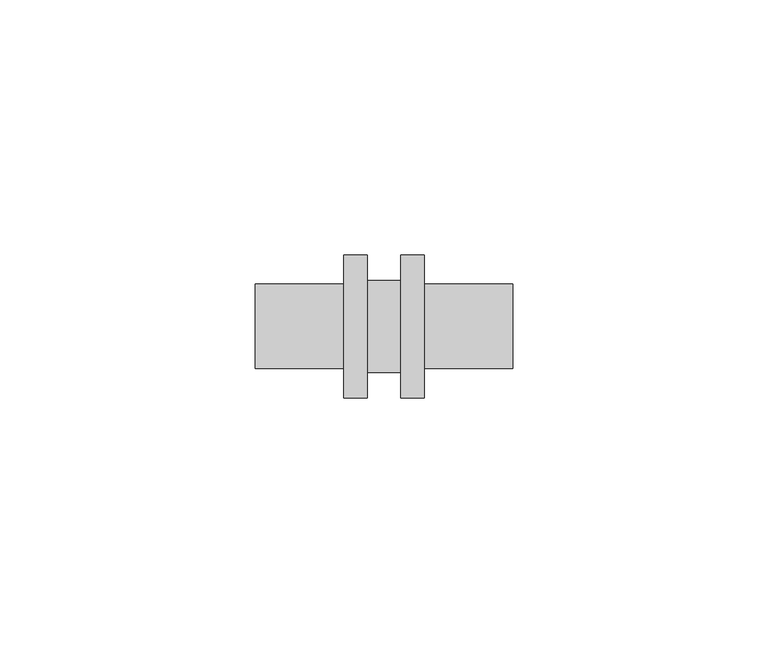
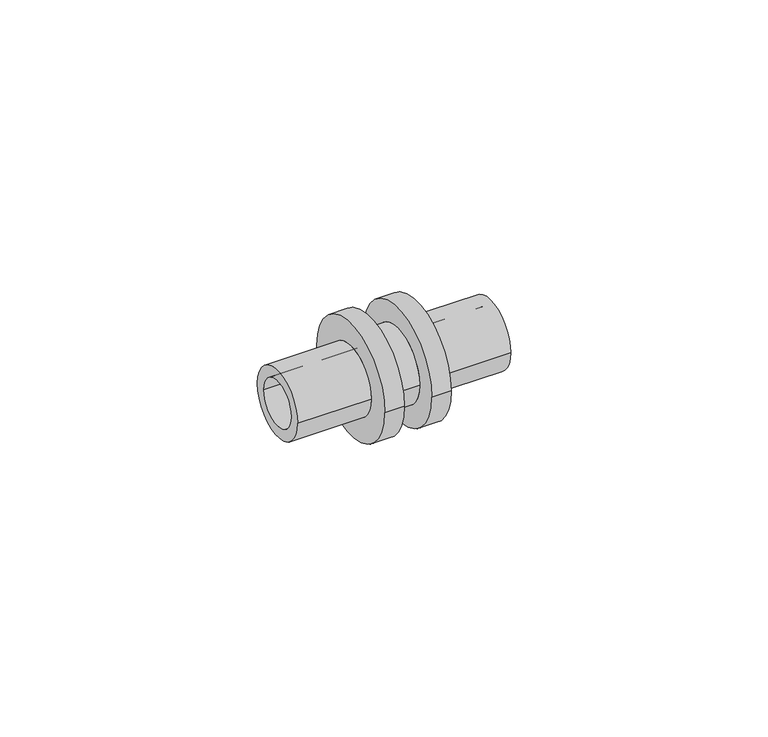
"""IFC4 building model written with IfcOpenShell, lengths in millimetres: pipe fitting geometry, RAUTITAN_Union_PX : RTI PX U DE."""

from ifc_helpers import new_model, si_unit, frame, origin, place, context, project, spatial, polyline, circle_curve, source, transform, mapped, element, save
from ifc_brep_helpers import plane_surface, cylinder_surface, revolved_surface, advanced_brep


def pipe_fitting_dde2d515(model_context):
    return source(origin(), model_context, "Body", "AdvancedBrep", [
        advanced_brep(
        [(-25.25, 5.6, 0.0), (-25.25, -5.6, 0.0), (25.25, -5.6, 0.0), (25.25, 5.6, 0.0), (-7.85, 8.3, 0.0), (-7.85, -8.3, 0.0), (-25.25, -8.3, 0.0), (-25.25, 8.3, 0.0), (-3.25, 14.0, 0.0), (-3.25, -14.0, 0.0), (-7.85, -14.0, 0.0), (-7.85, 14.0, 0.0), (3.25, 9.0, 0.0), (3.25, -9.0, 0.0), (-3.25, -9.0, 0.0), (-3.25, 9.0, 0.0), (7.85, 14.0, 0.0), (7.85, -14.0, 0.0), (3.25, -14.0, 0.0), (3.25, 14.0, 0.0), (25.25, 8.3, 0.0), (25.25, -8.3, 0.0), (7.85, -8.3, 0.0), (7.85, 8.3, 0.0)],
        [
            (0, 1, circle_curve(frame((-25.25, 0.0, 0.0), z_axis=(-1.0, 0.0, 0.0), x_axis=(0.0, -1.0, 0.0)), 5.6)),
            (1, 2),
            (2, 3, circle_curve(frame((25.25, 0.0, 0.0), z_axis=(1.0, 0.0, 0.0), x_axis=(0.0, -1.0, 0.0)), 5.6)),
            (3, 0),
            (4, 5, circle_curve(frame((-7.85, 0.0, 0.0), z_axis=(-1.0, 0.0, 0.0), x_axis=(0.0, -1.0, 0.0)), 8.3)),
            (5, 6),
            (6, 7, circle_curve(frame((-25.25, 0.0, 0.0), z_axis=(1.0, 0.0, 0.0), x_axis=(0.0, -1.0, 0.0)), 8.3)),
            (7, 4),
            (8, 9, circle_curve(frame((-3.25, 0.0, 0.0), z_axis=(-1.0, 0.0, 0.0), x_axis=(0.0, -1.0, 0.0)), 14.0)),
            (9, 10),
            (10, 11, circle_curve(frame((-7.85, 0.0, 0.0), z_axis=(1.0, 0.0, 0.0), x_axis=(0.0, -1.0, 0.0)), 14.0)),
            (11, 8),
            (12, 13, circle_curve(frame((3.25, 0.0, 0.0), z_axis=(-1.0, 0.0, 0.0), x_axis=(0.0, -1.0, 0.0)), 9.0)),
            (13, 14),
            (14, 15, circle_curve(frame((-3.25, 0.0, 0.0), z_axis=(1.0, 0.0, 0.0), x_axis=(0.0, -1.0, 0.0)), 9.0)),
            (15, 12),
            (16, 17, circle_curve(frame((7.85, 0.0, 0.0), z_axis=(-1.0, 0.0, 0.0), x_axis=(0.0, -1.0, 0.0)), 14.0)),
            (17, 18),
            (18, 19, circle_curve(frame((3.25, 0.0, 0.0), z_axis=(1.0, 0.0, 0.0), x_axis=(0.0, -1.0, 0.0)), 14.0)),
            (19, 16),
            (20, 21, circle_curve(frame((25.25, 0.0, 0.0), z_axis=(-1.0, 0.0, 0.0), x_axis=(0.0, -1.0, 0.0)), 8.3)),
            (21, 22),
            (22, 23, circle_curve(frame((7.85, 0.0, 0.0), z_axis=(1.0, 0.0, 0.0), x_axis=(0.0, -1.0, 0.0)), 8.3)),
            (23, 20),
            (1, 0, circle_curve(frame((-25.25, 0.0, 0.0), z_axis=(-1.0, 0.0, 0.0), x_axis=(0.0, 1.0, 0.0)), 5.6)),
            (3, 2, circle_curve(frame((25.25, 0.0, 0.0), z_axis=(1.0, 0.0, 0.0), x_axis=(0.0, 1.0, 0.0)), 5.6)),
            (6, 7, circle_curve(frame((-25.25, 0.0, 0.0), z_axis=(-1.0, 0.0, 0.0), x_axis=(0.0, 1.0, 0.0)), 8.3)),
            (5, 4, circle_curve(frame((-7.85, 0.0, 0.0), z_axis=(-1.0, 0.0, 0.0), x_axis=(0.0, 1.0, 0.0)), 8.3)),
            (10, 11, circle_curve(frame((-7.85, 0.0, 0.0), z_axis=(-1.0, 0.0, 0.0), x_axis=(0.0, 1.0, 0.0)), 14.0)),
            (9, 8, circle_curve(frame((-3.25, 0.0, 0.0), z_axis=(-1.0, 0.0, 0.0), x_axis=(0.0, 1.0, 0.0)), 14.0)),
            (14, 15, circle_curve(frame((-3.25, 0.0, 0.0), z_axis=(-1.0, 0.0, 0.0), x_axis=(0.0, 1.0, 0.0)), 9.0)),
            (13, 12, circle_curve(frame((3.25, 0.0, 0.0), z_axis=(-1.0, 0.0, 0.0), x_axis=(0.0, 1.0, 0.0)), 9.0)),
            (18, 19, circle_curve(frame((3.25, 0.0, 0.0), z_axis=(-1.0, 0.0, 0.0), x_axis=(0.0, 1.0, 0.0)), 14.0)),
            (17, 16, circle_curve(frame((7.85, 0.0, 0.0), z_axis=(-1.0, 0.0, 0.0), x_axis=(0.0, 1.0, 0.0)), 14.0)),
            (22, 23, circle_curve(frame((7.85, 0.0, 0.0), z_axis=(-1.0, 0.0, 0.0), x_axis=(0.0, 1.0, 0.0)), 8.3)),
            (21, 20, circle_curve(frame((25.25, 0.0, 0.0), z_axis=(-1.0, 0.0, 0.0), x_axis=(0.0, 1.0, 0.0)), 8.3)),
        ],
        [
            revolved_surface(polyline([(25.25, -5.6, 0.0), (-25.25, -5.6, 0.0)]), (0.0, 0.0, 0.0), (1.0, 0.0, 0.0)),
            cylinder_surface(frame((0.0, 0.0, 0.0), z_axis=(1.0, 0.0, 0.0), x_axis=(0.0, -1.0, 0.0)), 8.3),
            cylinder_surface(frame((0.0, 0.0, 0.0), z_axis=(1.0, 0.0, 0.0), x_axis=(0.0, -1.0, 0.0)), 14.0),
            cylinder_surface(frame((0.0, 0.0, 0.0), z_axis=(1.0, 0.0, 0.0), x_axis=(0.0, -1.0, 0.0)), 9.0),
            revolved_surface(polyline([(25.25, 5.6, 0.0), (-25.25, 5.6, 0.0)]), (0.0, 0.0, 0.0), (1.0, 0.0, 0.0)),
            plane_surface(frame((-25.25, 0.0, 0.0), z_axis=(-1.0, 0.0, 0.0), x_axis=(0.0, 1.0, 0.0))),
            cylinder_surface(frame((0.0, 0.0, 0.0), z_axis=(1.0, 0.0, 0.0), x_axis=(0.0, 1.0, 0.0)), 8.3),
            plane_surface(frame((-7.85, 0.0, 0.0), z_axis=(-1.0, 0.0, 0.0), x_axis=(0.0, 1.0, 0.0))),
            cylinder_surface(frame((0.0, 0.0, 0.0), z_axis=(1.0, 0.0, 0.0), x_axis=(0.0, 1.0, 0.0)), 14.0),
            plane_surface(frame((-3.25, 0.0, 0.0), z_axis=(1.0, 0.0, 0.0), x_axis=(0.0, 1.0, 0.0))),
            cylinder_surface(frame((0.0, 0.0, 0.0), z_axis=(1.0, 0.0, 0.0), x_axis=(0.0, 1.0, 0.0)), 9.0),
            plane_surface(frame((3.25, 0.0, 0.0), z_axis=(-1.0, 0.0, 0.0), x_axis=(0.0, 1.0, 0.0))),
            plane_surface(frame((7.85, 0.0, 0.0), z_axis=(1.0, 0.0, 0.0), x_axis=(0.0, 1.0, 0.0))),
            plane_surface(frame((25.25, 0.0, 0.0), z_axis=(1.0, 0.0, 0.0), x_axis=(0.0, 1.0, 0.0))),
        ],
        [
            (0, [[1, 2, 3, 4]]),
            (1, [[5, 6, 7, 8]]),
            (2, [[9, 10, 11, 12]]),
            (3, [[13, 14, 15, 16]]),
            (2, [[17, 18, 19, 20]]),
            (1, [[21, 22, 23, 24]]),
            (4, [[25, -4, 26, -2]]),
            (5, [[27, -7], [-25, -1]]),
            (6, [[28, -8, -27, -6]]),
            (7, [[29, -11], [-28, -5]]),
            (8, [[30, -12, -29, -10]]),
            (9, [[-30, -9], [31, -15]]),
            (10, [[32, -16, -31, -14]]),
            (11, [[33, -19], [-32, -13]]),
            (8, [[34, -20, -33, -18]]),
            (12, [[-34, -17], [35, -23]]),
            (6, [[36, -24, -35, -22]]),
            (13, [[-36, -21], [-26, -3]]),
        ],
    ),
    ])


if __name__ == "__main__":
    model = new_model("IFC4")
    model_context = context("Model", 3, world=origin())
    ifc_project = project(units=[si_unit("LENGTHUNIT", "METRE", prefix="MILLI")], contexts=[model_context])
    site = spatial("IfcSite", under=ifc_project)
    building = spatial("IfcBuilding", under=site)
    placement = place(None, origin())
    pipe_fitting_shape = pipe_fitting_dde2d515(model_context)
    element("IfcPipeFitting", 1, ObjectType="RAUTITAN_Union_PX : RTI PX U DE", at=placement, inside=building, context=model_context, shape_type="MappedRepresentation", body=[
        mapped(pipe_fitting_shape, transform((0.0, 0.0, 0.0), x_axis=(1.0, 0.0, 0.0), y_axis=(0.0, 1.0, 0.0), z_axis=(0.0, 0.0, 1.0))),
    ])
    save(model, "model.ifc")
